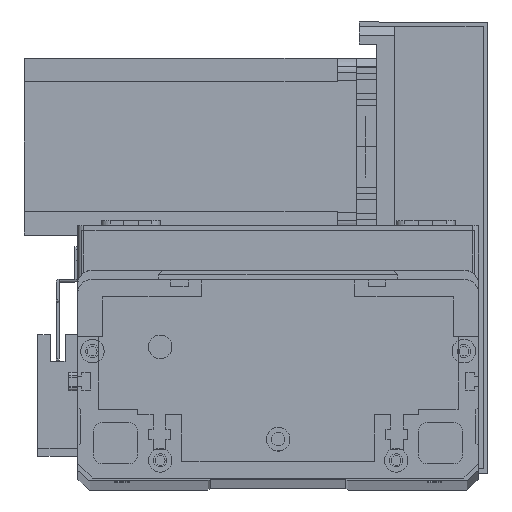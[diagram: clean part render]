
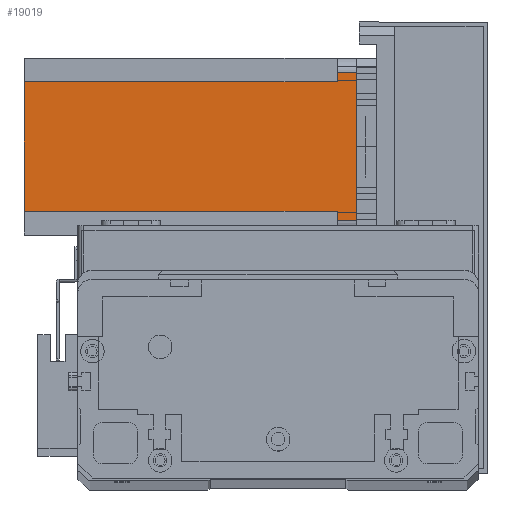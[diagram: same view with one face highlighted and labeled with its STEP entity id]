
A CAD part, top view. The second image highlights one B-rep face of the part: STEP entity #19019.
In plain terms, the highlighted planar face has unit normal (0, 0, 1) as drawn and (0, 1, 0) by its records, which use the part's own axes.
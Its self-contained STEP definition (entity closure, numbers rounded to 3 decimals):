
#98 = FACE_OUTER_BOUND ( 'NONE', #6873, .T. ) ;
#481 = VERTEX_POINT ( 'NONE', #19275 ) ;
#2047 = VERTEX_POINT ( 'NONE', #16840 ) ;
#2072 = LINE ( 'NONE', #5542, #7648 ) ;
#2127 = LINE ( 'NONE', #13503, #9185 ) ;
#2517 = VERTEX_POINT ( 'NONE', #26847 ) ;
#2908 = VERTEX_POINT ( 'NONE', #13407 ) ;
#3357 = PLANE ( 'NONE',  #23303 ) ;
#3465 = ORIENTED_EDGE ( 'NONE', *, *, #13603, .F. ) ;
#3549 = CARTESIAN_POINT ( 'NONE',  ( 8., 60., -6.5 ) ) ;
#3736 = VERTEX_POINT ( 'NONE', #3549 ) ;
#4044 = VECTOR ( 'NONE', #22113, 1000. ) ;
#4179 = ORIENTED_EDGE ( 'NONE', *, *, #5882, .F. ) ;
#4701 = LINE ( 'NONE', #6679, #28381 ) ;
#5290 = EDGE_CURVE ( 'NONE', #2517, #13464, #8838, .T. ) ;
#5542 = CARTESIAN_POINT ( 'NONE',  ( 8., 60., -6.5 ) ) ;
#5882 = EDGE_CURVE ( 'NONE', #25374, #13464, #22470, .T. ) ;
#5938 = ORIENTED_EDGE ( 'NONE', *, *, #6156, .T. ) ;
#5945 = CARTESIAN_POINT ( 'NONE',  ( 0., 60., -112.5 ) ) ;
#5968 = EDGE_CURVE ( 'NONE', #9087, #25374, #19658, .T. ) ;
#6156 = EDGE_CURVE ( 'NONE', #9087, #2908, #2127, .T. ) ;
#6679 = CARTESIAN_POINT ( 'NONE',  ( 8., 60., -112.5 ) ) ;
#6831 = EDGE_CURVE ( 'NONE', #3736, #2908, #4701, .T. ) ;
#6873 = EDGE_LOOP ( 'NONE', ( #3465, #14032, #4179, #27782, #5938, #9104, #7097, #14829 ) ) ;
#7097 = ORIENTED_EDGE ( 'NONE', *, *, #7143, .T. ) ;
#7143 = EDGE_CURVE ( 'NONE', #3736, #481, #2072, .T. ) ;
#7648 = VECTOR ( 'NONE', #25893, 1000. ) ;
#7731 = EDGE_CURVE ( 'NONE', #481, #2047, #29015, .T. ) ;
#8625 = VECTOR ( 'NONE', #24856, 1000. ) ;
#8838 = LINE ( 'NONE', #29028, #20344 ) ;
#9087 = VERTEX_POINT ( 'NONE', #14583 ) ;
#9104 = ORIENTED_EDGE ( 'NONE', *, *, #6831, .F. ) ;
#9185 = VECTOR ( 'NONE', #13461, 1000. ) ;
#12963 = DIRECTION ( 'NONE',  ( 0., 1., 0. ) ) ;
#13407 = CARTESIAN_POINT ( 'NONE',  ( 8., 60., -112.5 ) ) ;
#13461 = DIRECTION ( 'NONE',  ( -1., 0., 0. ) ) ;
#13464 = VERTEX_POINT ( 'NONE', #27018 ) ;
#13503 = CARTESIAN_POINT ( 'NONE',  ( 0., 60., -112.5 ) ) ;
#13540 = VECTOR ( 'NONE', #19826, 1000. ) ;
#13603 = EDGE_CURVE ( 'NONE', #2517, #2047, #14747, .T. ) ;
#14032 = ORIENTED_EDGE ( 'NONE', *, *, #5290, .T. ) ;
#14583 = CARTESIAN_POINT ( 'NONE',  ( 52., 60., -112.5 ) ) ;
#14747 = LINE ( 'NONE', #25020, #8625 ) ;
#14829 = ORIENTED_EDGE ( 'NONE', *, *, #7731, .T. ) ;
#16840 = CARTESIAN_POINT ( 'NONE',  ( 5., 60., 0. ) ) ;
#18990 = DIRECTION ( 'NONE',  ( 0., 0., 1. ) ) ;
#19019 = ADVANCED_FACE ( 'NONE', ( #98 ), #3357, .T. ) ;
#19275 = CARTESIAN_POINT ( 'NONE',  ( 5., 60., -6.5 ) ) ;
#19448 = CARTESIAN_POINT ( 'NONE',  ( 52., 60., -112.5 ) ) ;
#19472 = CARTESIAN_POINT ( 'NONE',  ( 5., 60., -112.5 ) ) ;
#19658 = LINE ( 'NONE', #19448, #13540 ) ;
#19826 = DIRECTION ( 'NONE',  ( 0., 0., 1. ) ) ;
#20344 = VECTOR ( 'NONE', #23681, 1000. ) ;
#20496 = CARTESIAN_POINT ( 'NONE',  ( 52., 60., -6.5 ) ) ;
#21850 = CARTESIAN_POINT ( 'NONE',  ( 52., 60., -6.5 ) ) ;
#22113 = DIRECTION ( 'NONE',  ( 1., 0., 0. ) ) ;
#22470 = LINE ( 'NONE', #21850, #4044 ) ;
#23077 = VECTOR ( 'NONE', #18990, 1000. ) ;
#23303 = AXIS2_PLACEMENT_3D ( 'NONE', #5945, #12963, #28834 ) ;
#23681 = DIRECTION ( 'NONE',  ( 0., 0., -1. ) ) ;
#24856 = DIRECTION ( 'NONE',  ( -1., 0., 0. ) ) ;
#25020 = CARTESIAN_POINT ( 'NONE',  ( 0., 60., 0. ) ) ;
#25374 = VERTEX_POINT ( 'NONE', #20496 ) ;
#25893 = DIRECTION ( 'NONE',  ( -1., 0., 0. ) ) ;
#26847 = CARTESIAN_POINT ( 'NONE',  ( 55., 60., 0. ) ) ;
#27018 = CARTESIAN_POINT ( 'NONE',  ( 55., 60., -6.5 ) ) ;
#27782 = ORIENTED_EDGE ( 'NONE', *, *, #5968, .F. ) ;
#28352 = DIRECTION ( 'NONE',  ( 0., 0., -1. ) ) ;
#28381 = VECTOR ( 'NONE', #28352, 1000. ) ;
#28834 = DIRECTION ( 'NONE',  ( 0., 0., 1. ) ) ;
#29015 = LINE ( 'NONE', #19472, #23077 ) ;
#29028 = CARTESIAN_POINT ( 'NONE',  ( 55., 60., -112.5 ) ) ;
